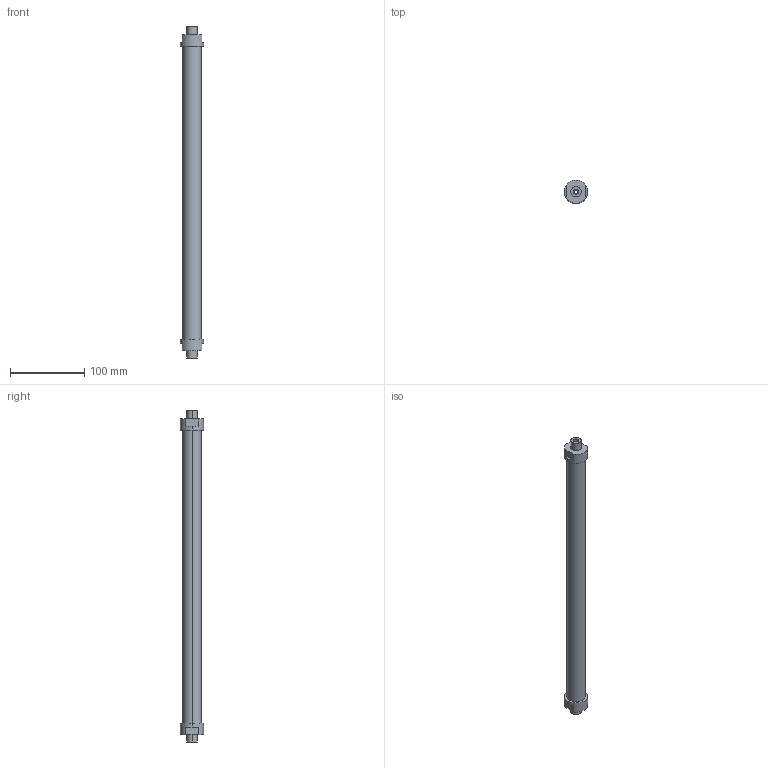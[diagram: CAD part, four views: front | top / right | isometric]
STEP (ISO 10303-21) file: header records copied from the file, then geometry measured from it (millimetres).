
FILE_DESCRIPTION(('STEP AP214'),'1');
FILE_NAME('ETT-R050G434.stp','2015-02-02T11:41:44',(' '),(' '),'Spatial InterOp 3D',' ',' ');
FILE_SCHEMA(('automotive_design'));
Length unit declared in the file: metre
Products named in the file (3): 1; 2; 3
Bounding box: 31 x 31 x 446 mm (x, y, z)
Volume: 205678.6 mm3; surface area: 45695.7 mm2
Topology: 1 solids, 7 shells, 32 faces, 86 edges, 66 vertices
Faces by surface type: cylinder 16, plane 16
Entity records: 1375 total; most frequent: DIRECTION 206, CARTESIAN_POINT 187, ORIENTED_EDGE 148, EDGE_CURVE 86, AXIS2_PLACEMENT_3D 85, VERTEX_POINT 66, CIRCLE 50, EDGE_LOOP 40
